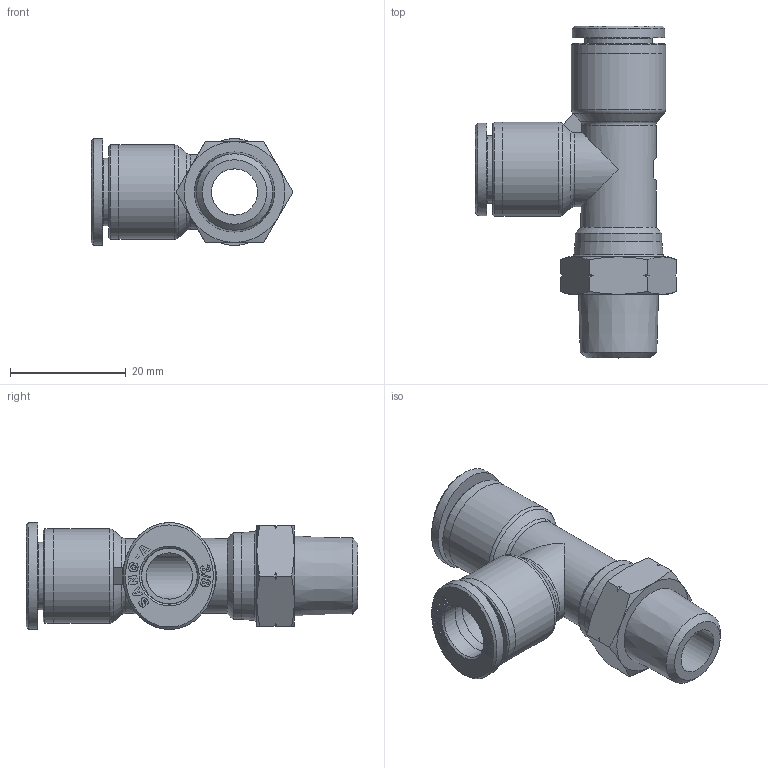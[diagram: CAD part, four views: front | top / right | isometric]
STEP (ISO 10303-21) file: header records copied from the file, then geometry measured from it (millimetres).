
FILE_DESCRIPTION((''),'2;1');
FILE_NAME('C:\Users\user0117\Desktop\김진일\홈페이지\3_8\Internet\GPST 3_8-N02U.stp','2019-09-05T15:09:46',('user0117'),(''),'Autodesk Inventor 2013','Autodesk Inventor 2013','');
FILE_SCHEMA(('AUTOMOTIVE_DESIGN { 1 0 10303 214 1 1 1 1 }'));
Length unit declared in the file: millimetre
Products named in the file (6): GPST 3_8-N02U; GPL BODY 3-8 N02(BRASS); GPST BODY 3-8(PLASTIC); G-COLLAR 3-8L; COLLAR G3-8L; SLEEVE G3-8
Assembly tree (6 placements, depth 3):
  GPST 3_8-N02U
    GPL BODY 3-8 N02(BRASS)
    GPST BODY 3-8(PLASTIC)
    G-COLLAR 3-8L  x2
      COLLAR G3-8L
      SLEEVE G3-8
Bounding box: 34.88 x 57.45 x 18.47 mm (x, y, z)
Volume: 9559 mm3; surface area: 8197.9 mm2
Topology: 6 solids, 6 shells, 708 faces, 1972 edges, 1309 vertices
Faces by surface type: plane 564, bspline 74, cone 38, cylinder 27, torus 5
Full cylindrical faces by diameter (mm): 8 x3, 9.75 x6, 11.7 x2, 13 x1, 14.1 x1, 15 x1, 16.3 x4
Entity records: 12560 total; most frequent: CARTESIAN_POINT 2993, ORIENTED_EDGE 2056, DIRECTION 1706, EDGE_CURVE 1028, VECTOR 820, LINE 820, VERTEX_POINT 696, EDGE_LOOP 448
